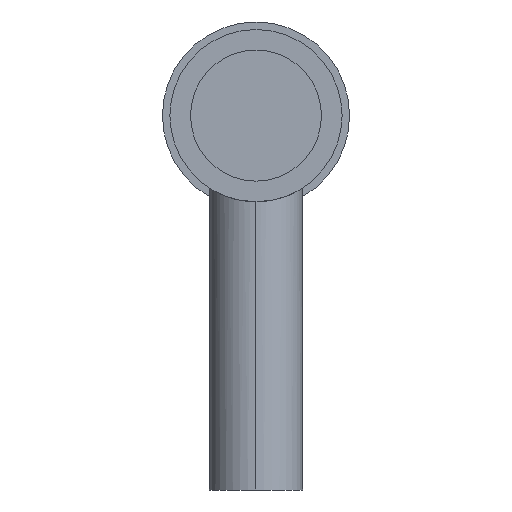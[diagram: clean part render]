
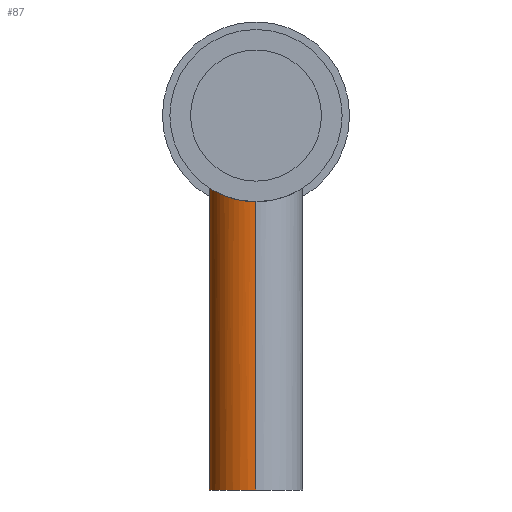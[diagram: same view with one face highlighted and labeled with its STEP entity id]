
A CAD part, left-side view. The second image highlights one B-rep face of the part: STEP entity #87.
In plain terms, the highlighted cylindrical face has radius 5 mm (diameter 10 mm), a partial arc.
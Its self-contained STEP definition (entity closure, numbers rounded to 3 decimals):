
#11 = CARTESIAN_POINT ( 'NONE',  ( -167.25, 0., -9.2 ) ) ;
#34 = AXIS2_PLACEMENT_3D ( 'NONE', #510, #127, #567 ) ;
#47 = AXIS2_PLACEMENT_3D ( 'NONE', #596, #438, #765 ) ;
#52 = DIRECTION ( 'NONE',  ( 0., 0., 1. ) ) ;
#58 = CARTESIAN_POINT ( 'NONE',  ( -166.213, 3.066, -8.679 ) ) ;
#63 = CARTESIAN_POINT ( 'NONE',  ( -161.422, 4.934, -7.765 ) ) ;
#65 = CARTESIAN_POINT ( 'NONE',  ( -157.578, 1.788, -9.026 ) ) ;
#76 = CARTESIAN_POINT ( 'NONE',  ( -157.25, 0., -40. ) ) ;
#82 = EDGE_LOOP ( 'NONE', ( #344, #258, #213, #497 ) ) ;
#87 = ADVANCED_FACE ( 'NONE', ( #278 ), #254, .T. ) ;
#127 = DIRECTION ( 'NONE',  ( 0., 0., 1. ) ) ;
#130 = DIRECTION ( 'NONE',  ( 0., 0., 1. ) ) ;
#131 = CARTESIAN_POINT ( 'NONE',  ( -165.554, 3.766, -8.397 ) ) ;
#134 = LINE ( 'NONE', #514, #182 ) ;
#135 = CARTESIAN_POINT ( 'NONE',  ( -160.938, 4.828, -7.832 ) ) ;
#137 = EDGE_CURVE ( 'NONE', #573, #259, #191, .T. ) ;
#139 = CARTESIAN_POINT ( 'NONE',  ( -157.424, 1.317, -9.107 ) ) ;
#143 = EDGE_CURVE ( 'NONE', #259, #707, #261, .T. ) ;
#144 = CARTESIAN_POINT ( 'NONE',  ( -167.25, 0., -40. ) ) ;
#149 = EDGE_CURVE ( 'NONE', #707, #542, #452, .T. ) ;
#160 = EDGE_CURVE ( 'NONE', #573, #542, #134, .T. ) ;
#174 = VECTOR ( 'NONE', #52, 1000. ) ;
#182 = VECTOR ( 'NONE', #130, 1000. ) ;
#191 = CIRCLE ( 'NONE', #34, 5. ) ;
#204 = CARTESIAN_POINT ( 'NONE',  ( -167.216, 0.669, -9.181 ) ) ;
#210 = CARTESIAN_POINT ( 'NONE',  ( -164.769, 4.331, -8.119 ) ) ;
#213 = ORIENTED_EDGE ( 'NONE', *, *, #149, .T. ) ;
#214 = CARTESIAN_POINT ( 'NONE',  ( -160.466, 4.674, -7.925 ) ) ;
#215 = CARTESIAN_POINT ( 'NONE',  ( -157.283, 0.664, -9.182 ) ) ;
#254 = CYLINDRICAL_SURFACE ( 'NONE', #47, 5. ) ;
#258 = ORIENTED_EDGE ( 'NONE', *, *, #143, .T. ) ;
#259 = VERTEX_POINT ( 'NONE', #144 ) ;
#261 = LINE ( 'NONE', #454, #174 ) ;
#275 = CARTESIAN_POINT ( 'NONE',  ( -163.888, 4.735, -7.889 ) ) ;
#277 = CARTESIAN_POINT ( 'NONE',  ( -159.729, 4.33, -8.12 ) ) ;
#278 = FACE_OUTER_BOUND ( 'NONE', #82, .T. ) ;
#283 = CARTESIAN_POINT ( 'NONE',  ( -157.25, 0., -9.2 ) ) ;
#339 = CARTESIAN_POINT ( 'NONE',  ( -167.25, 0.338, -9.2 ) ) ;
#344 = ORIENTED_EDGE ( 'NONE', *, *, #137, .T. ) ;
#346 = CARTESIAN_POINT ( 'NONE',  ( -162.919, 4.966, -7.745 ) ) ;
#349 = CARTESIAN_POINT ( 'NONE',  ( -158.943, 3.763, -8.399 ) ) ;
#408 = CARTESIAN_POINT ( 'NONE',  ( -166.985, 1.639, -9.058 ) ) ;
#411 = CARTESIAN_POINT ( 'NONE',  ( -162.089, 5., -7.723 ) ) ;
#413 = CARTESIAN_POINT ( 'NONE',  ( -158.285, 3.063, -8.68 ) ) ;
#421 = CARTESIAN_POINT ( 'NONE',  ( -157.25, 0., -9.2 ) ) ;
#438 = DIRECTION ( 'NONE',  ( 0., 0., 1. ) ) ;
#452 = B_SPLINE_CURVE_WITH_KNOTS ( 'NONE', 3,
 ( #680, #339, #204, #735, #408, #789, #457, #58, #516, #131, #569, #210, #622, #275, #684, #346, #737, #411, #794, #459, #63, #519, #135, #571, #214, #627, #277, #685, #349, #740, #413, #797, #465, #65, #520, #139, #574, #215, #629, #283 ),
 .UNSPECIFIED., .F., .F.,
 ( 4, 2, 2, 2, 2, 2, 2, 2, 2, 2, 2, 2, 2, 2, 2, 2, 2, 2, 2, 4 ),
 ( 0., 0.001, 0.002, 0.003, 0.004, 0.005, 0.006, 0.007, 0.008, 0.008, 0.009, 0.009, 0.01, 0.011, 0.012, 0.013, 0.014, 0.014, 0.015, 0.016 ),
 .UNSPECIFIED. ) ;
#454 = CARTESIAN_POINT ( 'NONE',  ( -167.25, 0., -40. ) ) ;
#457 = CARTESIAN_POINT ( 'NONE',  ( -166.576, 2.528, -8.85 ) ) ;
#459 = CARTESIAN_POINT ( 'NONE',  ( -161.586, 4.959, -7.749 ) ) ;
#465 = CARTESIAN_POINT ( 'NONE',  ( -157.767, 2.238, -8.929 ) ) ;
#497 = ORIENTED_EDGE ( 'NONE', *, *, #160, .F. ) ;
#510 = CARTESIAN_POINT ( 'NONE',  ( -162.25, 0., -40. ) ) ;
#514 = CARTESIAN_POINT ( 'NONE',  ( -157.25, 0., -40. ) ) ;
#516 = CARTESIAN_POINT ( 'NONE',  ( -166.007, 3.315, -8.585 ) ) ;
#519 = CARTESIAN_POINT ( 'NONE',  ( -161.098, 4.868, -7.807 ) ) ;
#520 = CARTESIAN_POINT ( 'NONE',  ( -157.521, 1.634, -9.055 ) ) ;
#542 = VERTEX_POINT ( 'NONE', #421 ) ;
#567 = DIRECTION ( 'NONE',  ( 1., 0., 0. ) ) ;
#569 = CARTESIAN_POINT ( 'NONE',  ( -165.304, 3.972, -8.301 ) ) ;
#571 = CARTESIAN_POINT ( 'NONE',  ( -160.622, 4.73, -7.891 ) ) ;
#573 = VERTEX_POINT ( 'NONE', #76 ) ;
#574 = CARTESIAN_POINT ( 'NONE',  ( -157.382, 1.154, -9.129 ) ) ;
#596 = CARTESIAN_POINT ( 'NONE',  ( -162.25, 0., -40. ) ) ;
#622 = CARTESIAN_POINT ( 'NONE',  ( -164.486, 4.484, -8.035 ) ) ;
#627 = CARTESIAN_POINT ( 'NONE',  ( -160.013, 4.484, -8.035 ) ) ;
#629 = CARTESIAN_POINT ( 'NONE',  ( -157.25, 0.334, -9.2 ) ) ;
#680 = CARTESIAN_POINT ( 'NONE',  ( -167.25, 0., -9.2 ) ) ;
#684 = CARTESIAN_POINT ( 'NONE',  ( -163.567, 4.835, -7.828 ) ) ;
#685 = CARTESIAN_POINT ( 'NONE',  ( -159.192, 3.969, -8.302 ) ) ;
#707 = VERTEX_POINT ( 'NONE', #11 ) ;
#735 = CARTESIAN_POINT ( 'NONE',  ( -167.085, 1.318, -9.111 ) ) ;
#737 = CARTESIAN_POINT ( 'NONE',  ( -162.59, 5., -7.723 ) ) ;
#740 = CARTESIAN_POINT ( 'NONE',  ( -158.49, 3.311, -8.587 ) ) ;
#765 = DIRECTION ( 'NONE',  ( 1., 0., 0. ) ) ;
#789 = CARTESIAN_POINT ( 'NONE',  ( -166.731, 2.242, -8.928 ) ) ;
#794 = CARTESIAN_POINT ( 'NONE',  ( -161.92, 4.992, -7.728 ) ) ;
#797 = CARTESIAN_POINT ( 'NONE',  ( -157.921, 2.523, -8.852 ) ) ;
